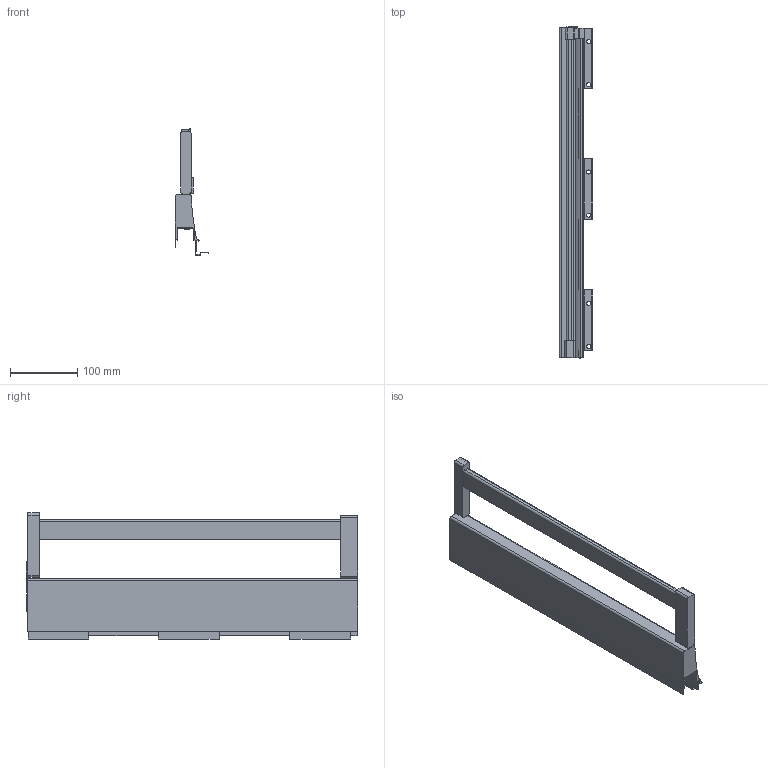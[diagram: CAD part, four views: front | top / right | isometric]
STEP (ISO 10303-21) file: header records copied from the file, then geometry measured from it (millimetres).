
FILE_DESCRIPTION (( 'STEP AP214' ), '1' );
FILE_NAME ('_XP Agantis Dekorseite H95 NL500 LI Rechteckreling.step', '2010-07-08T06:08:25', ( 'grass' ), ( '' ), 'SwSTEP 2.0', 'SolidWorks 2010', '' );
FILE_SCHEMA (( 'AUTOMOTIVE_DESIGN' ));
Length unit declared in the file: millimetre
Products named in the file (1): _XP Agantis Dekorseite H95 NL500 LI Rechteckreling
Bounding box: 50.01 x 492.45 x 187 mm (x, y, z)
Volume: 888683.3 mm3; surface area: 213652.7 mm2
Topology: 2 solids, 2 shells, 166 faces, 477 edges, 312 vertices
Faces by surface type: plane 127, cylinder 39
Entity records: 5455 total; most frequent: CARTESIAN_POINT 956, ORIENTED_EDGE 954, DIRECTION 890, EDGE_CURVE 477, LINE 398, VECTOR 398, VERTEX_POINT 312, AXIS2_PLACEMENT_3D 246
